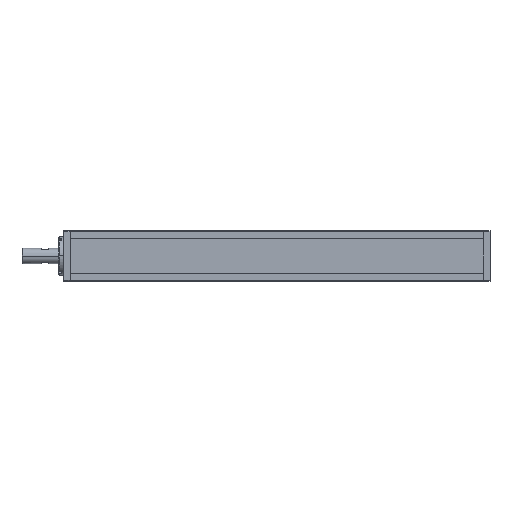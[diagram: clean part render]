
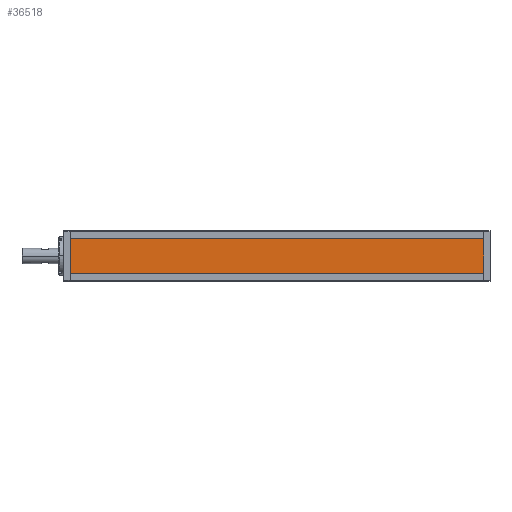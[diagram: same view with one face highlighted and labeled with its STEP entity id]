
A CAD part, front view. The second image highlights one B-rep face of the part: STEP entity #36518.
In plain terms, the highlighted planar face has unit normal (0, -1, 0) as drawn and (-1, 0, 0) by its records, which use the part's own axes.
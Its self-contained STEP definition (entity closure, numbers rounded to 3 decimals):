
#777 = CARTESIAN_POINT ( 'NONE',  ( 0., 0., 0. ) ) ;
#1395 = VECTOR ( 'NONE', #21096, 1000. ) ;
#2480 = FACE_OUTER_BOUND ( 'NONE', #8488, .T. ) ;
#3756 = AXIS2_PLACEMENT_3D ( 'NONE', #27838, #21414, #24743 ) ;
#4908 = EDGE_CURVE ( 'NONE', #8356, #23609, #24208, .T. ) ;
#5518 = CARTESIAN_POINT ( 'NONE',  ( 0., 0., -325. ) ) ;
#5981 = ORIENTED_EDGE ( 'NONE', *, *, #4908, .T. ) ;
#6755 = VECTOR ( 'NONE', #9069, 1000. ) ;
#8174 = VECTOR ( 'NONE', #21658, 1000. ) ;
#8248 = ORIENTED_EDGE ( 'NONE', *, *, #39084, .F. ) ;
#8356 = VERTEX_POINT ( 'NONE', #10076 ) ;
#8488 = EDGE_LOOP ( 'NONE', ( #9527, #8248, #19898, #5981 ) ) ;
#9069 = DIRECTION ( 'NONE',  ( 0., -1., 0. ) ) ;
#9527 = ORIENTED_EDGE ( 'NONE', *, *, #19169, .F. ) ;
#10076 = CARTESIAN_POINT ( 'NONE',  ( 0., 0., -325. ) ) ;
#10930 = CARTESIAN_POINT ( 'NONE',  ( 0., 27.3, -325. ) ) ;
#12973 = EDGE_CURVE ( 'NONE', #37844, #8356, #37152, .T. ) ;
#19070 = CARTESIAN_POINT ( 'NONE',  ( 0., 27.3, 0. ) ) ;
#19169 = EDGE_CURVE ( 'NONE', #22251, #23609, #25180, .T. ) ;
#19898 = ORIENTED_EDGE ( 'NONE', *, *, #12973, .T. ) ;
#21096 = DIRECTION ( 'NONE',  ( 0., 0., 1. ) ) ;
#21414 = DIRECTION ( 'NONE',  ( -1., 0., 0. ) ) ;
#21487 = CARTESIAN_POINT ( 'NONE',  ( 0., 0., -325. ) ) ;
#21658 = DIRECTION ( 'NONE',  ( 0., -1., 0. ) ) ;
#22251 = VERTEX_POINT ( 'NONE', #19070 ) ;
#22991 = DIRECTION ( 'NONE',  ( 0., 0., 1. ) ) ;
#23609 = VERTEX_POINT ( 'NONE', #777 ) ;
#24208 = LINE ( 'NONE', #21487, #1395 ) ;
#24743 = DIRECTION ( 'NONE',  ( 0., 0., 1. ) ) ;
#24874 = VECTOR ( 'NONE', #22991, 1000. ) ;
#25180 = LINE ( 'NONE', #37885, #8174 ) ;
#27648 = PLANE ( 'NONE',  #3756 ) ;
#27838 = CARTESIAN_POINT ( 'NONE',  ( 0., 0., -325. ) ) ;
#32967 = LINE ( 'NONE', #10930, #24874 ) ;
#36518 = ADVANCED_FACE ( 'NONE', ( #2480 ), #27648, .T. ) ;
#37152 = LINE ( 'NONE', #5518, #6755 ) ;
#37844 = VERTEX_POINT ( 'NONE', #39163 ) ;
#37885 = CARTESIAN_POINT ( 'NONE',  ( 0., 0., 0. ) ) ;
#39084 = EDGE_CURVE ( 'NONE', #37844, #22251, #32967, .T. ) ;
#39163 = CARTESIAN_POINT ( 'NONE',  ( 0., 27.3, -325. ) ) ;
